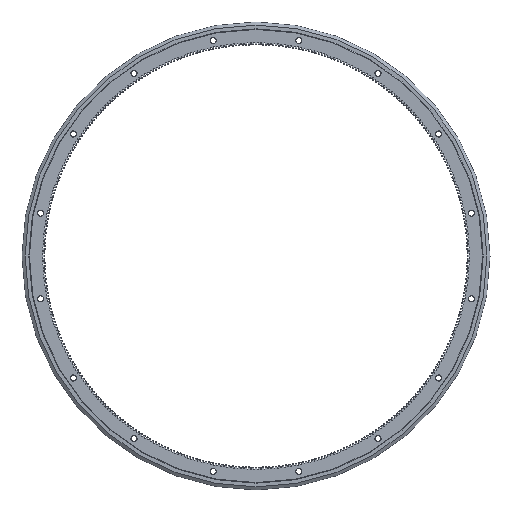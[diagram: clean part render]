
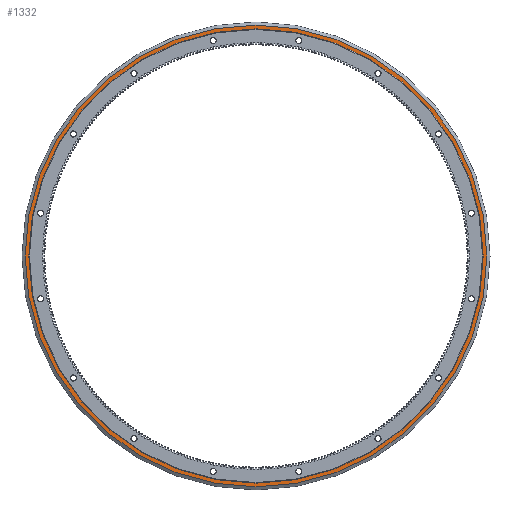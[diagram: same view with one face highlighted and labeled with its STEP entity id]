
A CAD part, front view. The second image highlights one B-rep face of the part: STEP entity #1332.
In plain terms, the highlighted planar face has unit normal (0, -1, 0).
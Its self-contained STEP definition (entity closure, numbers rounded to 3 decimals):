
#1332 = ADVANCED_FACE( '', ( #4712, #4713 ), #4714, .T. );
#4712 = FACE_OUTER_BOUND( '', #8927, .T. );
#4713 = FACE_BOUND( '', #8928, .T. );
#4714 = PLANE( '', #8929 );
#8927 = EDGE_LOOP( '', ( #20016 ) );
#8928 = EDGE_LOOP( '', ( #20017 ) );
#8929 = AXIS2_PLACEMENT_3D( '', #20018, #20019, #20020 );
#20016 = ORIENTED_EDGE( '', *, *, #33614, .T. );
#20017 = ORIENTED_EDGE( '', *, *, #33615, .F. );
#20018 = CARTESIAN_POINT( '', ( 423.4, 15., 0. ) );
#20019 = DIRECTION( '', ( 0., -1., 0. ) );
#20020 = DIRECTION( '', ( 0., 0., -1. ) );
#33614 = EDGE_CURVE( '', #43676, #43676, #43677, .T. );
#33615 = EDGE_CURVE( '', #43678, #43678, #43679, .T. );
#43676 = VERTEX_POINT( '', #59284 );
#43677 = CIRCLE( '', #59285, 430.943 );
#43678 = VERTEX_POINT( '', #59286 );
#43679 = CIRCLE( '', #59287, 423.4 );
#59284 = CARTESIAN_POINT( '', ( 0., 15., -430.943 ) );
#59285 = AXIS2_PLACEMENT_3D( '', #66317, #66318, #66319 );
#59286 = CARTESIAN_POINT( '', ( 0., 15., -423.4 ) );
#59287 = AXIS2_PLACEMENT_3D( '', #66320, #66321, #66322 );
#66317 = CARTESIAN_POINT( '', ( 0., 15., 0. ) );
#66318 = DIRECTION( '', ( 0., -1., 0. ) );
#66319 = DIRECTION( '', ( 0., 0., -1. ) );
#66320 = CARTESIAN_POINT( '', ( 0., 15., 0. ) );
#66321 = DIRECTION( '', ( 0., -1., 0. ) );
#66322 = DIRECTION( '', ( 0., 0., -1. ) );
